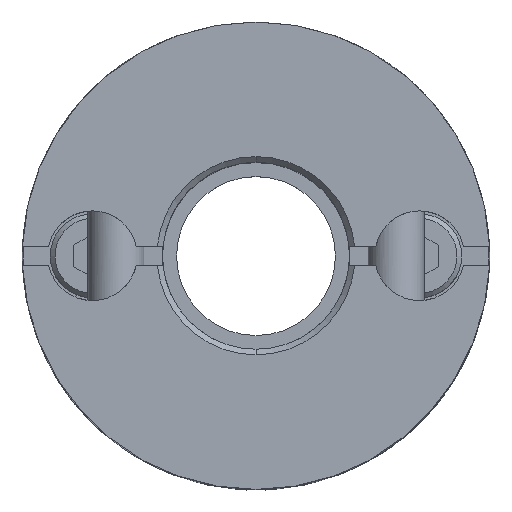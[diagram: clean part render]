
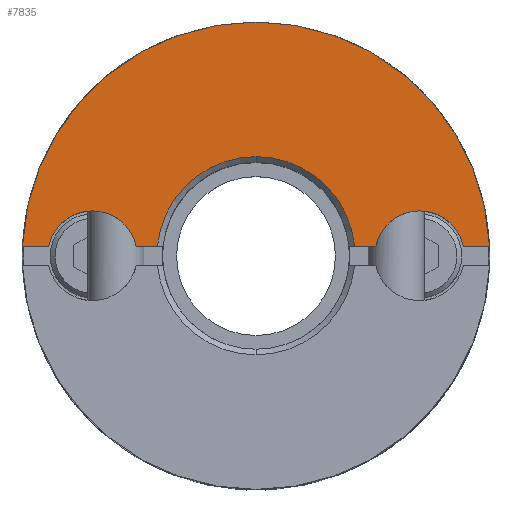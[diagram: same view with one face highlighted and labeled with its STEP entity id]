
A CAD part, top view. The second image highlights one B-rep face of the part: STEP entity #7835.
In plain terms, the highlighted planar face has unit normal (0, 0, 1).
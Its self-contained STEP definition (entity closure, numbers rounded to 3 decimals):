
#809=CARTESIAN_POINT('',(0.,12.5,11.7));
#810=VERTEX_POINT('',#809);
#817=CARTESIAN_POINT('',(12.49,0.5,11.7));
#818=VERTEX_POINT('',#817);
#819=CARTESIAN_POINT('',(0.,0.0,11.7));
#820=DIRECTION('',(0.0,0.0,-1.0));
#821=DIRECTION('',(0.0,-1.0,0.0));
#822=AXIS2_PLACEMENT_3D('',#819,#820,#821);
#823=CIRCLE('',#822,12.5);
#824=EDGE_CURVE('',#810,#818,#823,.T.);
#1028=CARTESIAN_POINT('',(0.,5.3,11.7));
#1029=VERTEX_POINT('',#1028);
#1037=CARTESIAN_POINT('',(5.276,0.5,11.7));
#1038=VERTEX_POINT('',#1037);
#1052=CARTESIAN_POINT('',(0.,0.0,11.7));
#1053=DIRECTION('',(0.0,0.0,1.0));
#1054=DIRECTION('',(0.0,1.0,0.0));
#1055=AXIS2_PLACEMENT_3D('',#1052,#1053,#1054);
#1056=CIRCLE('',#1055,5.3);
#1057=EDGE_CURVE('',#1038,#1029,#1056,.T.);
#1428=CARTESIAN_POINT('',(8.75,2.4,11.7));
#1429=VERTEX_POINT('',#1428);
#1436=CARTESIAN_POINT('',(6.403,0.5,11.7));
#1437=VERTEX_POINT('',#1436);
#1438=CARTESIAN_POINT('',(8.75,0.,11.7));
#1439=DIRECTION('',(0.0,0.0,-1.0));
#1440=DIRECTION('',(0.0,-1.0,0.0));
#1441=AXIS2_PLACEMENT_3D('',#1438,#1439,#1440);
#1442=CIRCLE('',#1441,2.4);
#1443=EDGE_CURVE('',#1437,#1429,#1442,.T.);
#1503=CARTESIAN_POINT('',(11.097,0.5,11.7));
#1504=VERTEX_POINT('',#1503);
#1511=CARTESIAN_POINT('',(8.75,0.,11.7));
#1512=DIRECTION('',(0.0,0.0,-1.0));
#1513=DIRECTION('',(0.0,-1.0,0.0));
#1514=AXIS2_PLACEMENT_3D('',#1511,#1512,#1513);
#1515=CIRCLE('',#1514,2.4);
#1516=EDGE_CURVE('',#1429,#1504,#1515,.T.);
#1837=CARTESIAN_POINT('',(-8.75,2.4,11.7));
#1838=VERTEX_POINT('',#1837);
#1870=CARTESIAN_POINT('',(-6.403,0.5,11.7));
#1871=VERTEX_POINT('',#1870);
#1878=CARTESIAN_POINT('',(-8.75,0.,11.7));
#1879=DIRECTION('',(0.0,0.0,-1.0));
#1880=DIRECTION('',(0.0,-1.0,0.0));
#1881=AXIS2_PLACEMENT_3D('',#1878,#1879,#1880);
#1882=CIRCLE('',#1881,2.4);
#1883=EDGE_CURVE('',#1838,#1871,#1882,.T.);
#6343=CARTESIAN_POINT('',(-11.097,0.5,11.7));
#6344=VERTEX_POINT('',#6343);
#6345=CARTESIAN_POINT('',(-8.75,0.,11.7));
#6346=DIRECTION('',(0.0,0.0,-1.0));
#6347=DIRECTION('',(0.0,-1.0,0.0));
#6348=AXIS2_PLACEMENT_3D('',#6345,#6346,#6347);
#6349=CIRCLE('',#6348,2.4);
#6350=EDGE_CURVE('',#6344,#1838,#6349,.T.);
#6870=CARTESIAN_POINT('',(5.276,0.5,11.7));
#6871=DIRECTION('',(1.0,0.0,0.0));
#6872=VECTOR('',#6871,1.126);
#6873=LINE('',#6870,#6872);
#6874=EDGE_CURVE('',#1038,#1437,#6873,.T.);
#6938=CARTESIAN_POINT('',(-5.276,0.5,11.7));
#6939=VERTEX_POINT('',#6938);
#6953=CARTESIAN_POINT('',(-6.403,0.5,11.7));
#6954=DIRECTION('',(1.0,0.0,0.0));
#6955=VECTOR('',#6954,1.126);
#6956=LINE('',#6953,#6955);
#6957=EDGE_CURVE('',#1871,#6939,#6956,.T.);
#7613=CARTESIAN_POINT('',(-12.49,0.5,11.7));
#7614=VERTEX_POINT('',#7613);
#7615=CARTESIAN_POINT('',(-12.49,0.5,11.7));
#7616=DIRECTION('',(1.0,0.0,0.0));
#7617=VECTOR('',#7616,1.393);
#7618=LINE('',#7615,#7617);
#7619=EDGE_CURVE('',#7614,#6344,#7618,.T.);
#7719=CARTESIAN_POINT('',(11.097,0.5,11.7));
#7720=DIRECTION('',(1.0,0.0,0.0));
#7721=VECTOR('',#7720,1.393);
#7722=LINE('',#7719,#7721);
#7723=EDGE_CURVE('',#1504,#818,#7722,.T.);
#7804=CARTESIAN_POINT('',(0.,-1.136,11.7));
#7805=DIRECTION('',(0.0,0.0,1.0));
#7806=DIRECTION('',(0.0,-1.0,0.0));
#7807=AXIS2_PLACEMENT_3D('',#7804,#7805,#7806);
#7808=PLANE('',#7807);
#7809=ORIENTED_EDGE('',*,*,#6350,.T.);
#7810=ORIENTED_EDGE('',*,*,#1883,.T.);
#7811=ORIENTED_EDGE('',*,*,#6957,.T.);
#7812=CARTESIAN_POINT('',(0.,0.0,11.7));
#7813=DIRECTION('',(0.0,0.0,1.0));
#7814=DIRECTION('',(0.0,1.0,0.0));
#7815=AXIS2_PLACEMENT_3D('',#7812,#7813,#7814);
#7816=CIRCLE('',#7815,5.3);
#7817=EDGE_CURVE('',#1029,#6939,#7816,.T.);
#7818=ORIENTED_EDGE('',*,*,#7817,.F.);
#7819=ORIENTED_EDGE('',*,*,#1057,.F.);
#7820=ORIENTED_EDGE('',*,*,#6874,.T.);
#7821=ORIENTED_EDGE('',*,*,#1443,.T.);
#7822=ORIENTED_EDGE('',*,*,#1516,.T.);
#7823=ORIENTED_EDGE('',*,*,#7723,.T.);
#7824=ORIENTED_EDGE('',*,*,#824,.F.);
#7825=CARTESIAN_POINT('',(0.,0.0,11.7));
#7826=DIRECTION('',(0.0,0.0,-1.0));
#7827=DIRECTION('',(0.0,-1.0,0.0));
#7828=AXIS2_PLACEMENT_3D('',#7825,#7826,#7827);
#7829=CIRCLE('',#7828,12.5);
#7830=EDGE_CURVE('',#7614,#810,#7829,.T.);
#7831=ORIENTED_EDGE('',*,*,#7830,.F.);
#7832=ORIENTED_EDGE('',*,*,#7619,.T.);
#7833=EDGE_LOOP('',(#7809,#7810,#7811,#7818,#7819,#7820,#7821,#7822,#7823,#7824,#7831,#7832));
#7834=FACE_OUTER_BOUND('',#7833,.T.);
#7835=ADVANCED_FACE('',(#7834),#7808,.T.);
